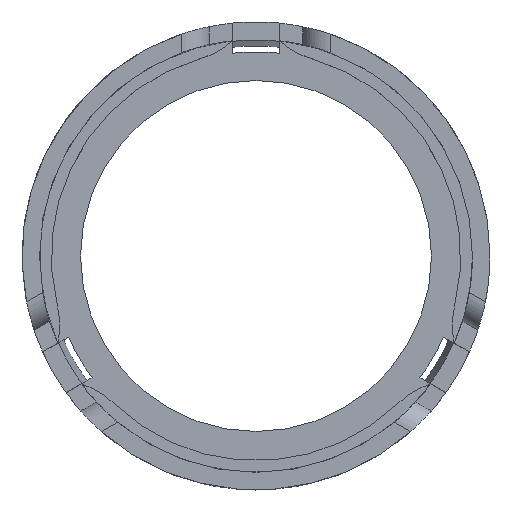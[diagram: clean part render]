
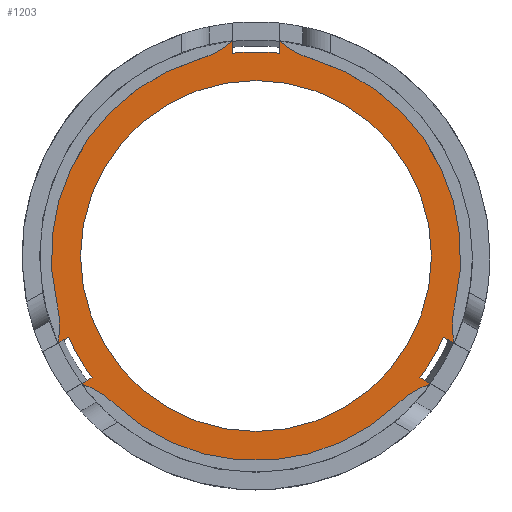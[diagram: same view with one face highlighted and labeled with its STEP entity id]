
A CAD part, top view. The second image highlights one B-rep face of the part: STEP entity #1203.
In plain terms, the highlighted planar face has unit normal (0, 0, 1).
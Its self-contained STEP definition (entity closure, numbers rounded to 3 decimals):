
#33=FACE_BOUND('',#182,.T.);
#60=PLANE('',#1348);
#117=FACE_OUTER_BOUND('',#181,.T.);
#181=EDGE_LOOP('',(#1009,#1010,#1011,#1012,#1013,#1014,#1015,#1016,#1017,
#1018,#1019,#1020,#1021,#1022,#1023,#1024,#1025,#1026));
#182=EDGE_LOOP('',(#1027));
#272=LINE('',#2162,#358);
#273=LINE('',#2164,#359);
#274=LINE('',#2167,#360);
#275=LINE('',#2169,#361);
#276=LINE('',#2172,#362);
#277=LINE('',#2174,#363);
#358=VECTOR('',#1674,10.);
#359=VECTOR('',#1675,10.);
#360=VECTOR('',#1678,10.);
#361=VECTOR('',#1679,10.);
#362=VECTOR('',#1682,10.);
#363=VECTOR('',#1683,10.);
#411=CIRCLE('',#1276,17.5);
#416=CIRCLE('',#1288,7.5);
#418=CIRCLE('',#1291,7.5);
#422=CIRCLE('',#1297,17.5);
#423=CIRCLE('',#1299,7.5);
#424=CIRCLE('',#1301,7.5);
#425=CIRCLE('',#1303,17.5);
#426=CIRCLE('',#1305,7.5);
#429=CIRCLE('',#1310,7.5);
#446=CIRCLE('',#1347,15.);
#447=CIRCLE('',#1349,17.45);
#448=CIRCLE('',#1350,17.45);
#449=CIRCLE('',#1351,17.45);
#512=VERTEX_POINT('',#1930);
#514=VERTEX_POINT('',#1933);
#520=VERTEX_POINT('',#1967);
#523=VERTEX_POINT('',#1972);
#525=VERTEX_POINT('',#1978);
#528=VERTEX_POINT('',#1988);
#529=VERTEX_POINT('',#1992);
#532=VERTEX_POINT('',#2000);
#533=VERTEX_POINT('',#2002);
#534=VERTEX_POINT('',#2006);
#535=VERTEX_POINT('',#2010);
#538=VERTEX_POINT('',#2020);
#560=VERTEX_POINT('',#2157);
#561=VERTEX_POINT('',#2161);
#562=VERTEX_POINT('',#2163);
#563=VERTEX_POINT('',#2165);
#564=VERTEX_POINT('',#2168);
#565=VERTEX_POINT('',#2170);
#566=VERTEX_POINT('',#2173);
#642=EDGE_CURVE('',#514,#512,#411,.T.);
#660=EDGE_CURVE('',#520,#523,#416,.T.);
#662=EDGE_CURVE('',#525,#514,#418,.T.);
#668=EDGE_CURVE('',#528,#520,#422,.T.);
#669=EDGE_CURVE('',#529,#528,#423,.T.);
#674=EDGE_CURVE('',#533,#532,#424,.T.);
#677=EDGE_CURVE('',#534,#533,#425,.T.);
#678=EDGE_CURVE('',#535,#534,#426,.T.);
#684=EDGE_CURVE('',#512,#538,#429,.T.);
#725=EDGE_CURVE('',#560,#560,#446,.T.);
#726=EDGE_CURVE('',#561,#525,#272,.T.);
#727=EDGE_CURVE('',#538,#562,#273,.T.);
#728=EDGE_CURVE('',#562,#563,#447,.T.);
#729=EDGE_CURVE('',#563,#535,#274,.T.);
#730=EDGE_CURVE('',#532,#564,#275,.T.);
#731=EDGE_CURVE('',#564,#565,#448,.T.);
#732=EDGE_CURVE('',#565,#529,#276,.T.);
#733=EDGE_CURVE('',#523,#566,#277,.T.);
#734=EDGE_CURVE('',#566,#561,#449,.T.);
#1009=ORIENTED_EDGE('',*,*,#726,.T.);
#1010=ORIENTED_EDGE('',*,*,#662,.T.);
#1011=ORIENTED_EDGE('',*,*,#642,.T.);
#1012=ORIENTED_EDGE('',*,*,#684,.T.);
#1013=ORIENTED_EDGE('',*,*,#727,.T.);
#1014=ORIENTED_EDGE('',*,*,#728,.T.);
#1015=ORIENTED_EDGE('',*,*,#729,.T.);
#1016=ORIENTED_EDGE('',*,*,#678,.T.);
#1017=ORIENTED_EDGE('',*,*,#677,.T.);
#1018=ORIENTED_EDGE('',*,*,#674,.T.);
#1019=ORIENTED_EDGE('',*,*,#730,.T.);
#1020=ORIENTED_EDGE('',*,*,#731,.T.);
#1021=ORIENTED_EDGE('',*,*,#732,.T.);
#1022=ORIENTED_EDGE('',*,*,#669,.T.);
#1023=ORIENTED_EDGE('',*,*,#668,.T.);
#1024=ORIENTED_EDGE('',*,*,#660,.T.);
#1025=ORIENTED_EDGE('',*,*,#733,.T.);
#1026=ORIENTED_EDGE('',*,*,#734,.T.);
#1027=ORIENTED_EDGE('',*,*,#725,.T.);
#1203=ADVANCED_FACE('',(#117,#33),#60,.T.);
#1276=AXIS2_PLACEMENT_3D('',#1934,#1489,#1490);
#1288=AXIS2_PLACEMENT_3D('',#1974,#1523,#1524);
#1291=AXIS2_PLACEMENT_3D('',#1979,#1529,#1530);
#1297=AXIS2_PLACEMENT_3D('',#1990,#1543,#1544);
#1299=AXIS2_PLACEMENT_3D('',#1993,#1547,#1548);
#1301=AXIS2_PLACEMENT_3D('',#2003,#1555,#1556);
#1303=AXIS2_PLACEMENT_3D('',#2008,#1561,#1562);
#1305=AXIS2_PLACEMENT_3D('',#2011,#1565,#1566);
#1310=AXIS2_PLACEMENT_3D('',#2022,#1578,#1579);
#1347=AXIS2_PLACEMENT_3D('',#2159,#1670,#1671);
#1348=AXIS2_PLACEMENT_3D('',#2160,#1672,#1673);
#1349=AXIS2_PLACEMENT_3D('',#2166,#1676,#1677);
#1350=AXIS2_PLACEMENT_3D('',#2171,#1680,#1681);
#1351=AXIS2_PLACEMENT_3D('',#2175,#1684,#1685);
#1489=DIRECTION('center_axis',(0.,0.,
1.));
#1490=DIRECTION('ref_axis',(-1.,0.,0.));
#1523=DIRECTION('center_axis',(0.,0.,
-1.));
#1524=DIRECTION('ref_axis',(0.971,0.239,0.));
#1529=DIRECTION('center_axis',(0.,0.,
-1.));
#1530=DIRECTION('ref_axis',(0.692,0.722,0.));
#1543=DIRECTION('center_axis',(0.,0.,
1.));
#1544=DIRECTION('ref_axis',(-1.,0.,0.));
#1547=DIRECTION('center_axis',(0.,0.,
-1.));
#1548=DIRECTION('ref_axis',(0.279,-0.96,0.));
#1555=DIRECTION('center_axis',(0.,0.,
-1.));
#1556=DIRECTION('ref_axis',(-0.663,-0.749,0.));
#1561=DIRECTION('center_axis',(0.,0.,
1.));
#1562=DIRECTION('ref_axis',(1.,0.,0.));
#1565=DIRECTION('center_axis',(0.,0.,
-1.));
#1566=DIRECTION('ref_axis',(-0.971,0.239,0.));
#1578=DIRECTION('center_axis',(0.,0.,
-1.));
#1579=DIRECTION('ref_axis',(-0.692,0.722,0.));
#1670=DIRECTION('center_axis',(0.,0.,-1.));
#1671=DIRECTION('ref_axis',(1.,0.,0.));
#1672=DIRECTION('center_axis',(0.,0.,
1.));
#1673=DIRECTION('ref_axis',(1.,0.,0.));
#1674=DIRECTION('',(-0.866,-0.5,0.));
#1675=DIRECTION('',(-0.866,0.5,0.));
#1676=DIRECTION('center_axis',(0.,0.,
1.));
#1677=DIRECTION('ref_axis',(1.,0.,0.));
#1678=DIRECTION('',(0.866,-0.5,0.));
#1679=DIRECTION('',(0.,-1.,0.));
#1680=DIRECTION('center_axis',(0.,0.,
1.));
#1681=DIRECTION('ref_axis',(1.,0.,0.));
#1682=DIRECTION('',(0.,1.,0.));
#1683=DIRECTION('',(0.866,0.5,0.));
#1684=DIRECTION('center_axis',(0.,0.,
1.));
#1685=DIRECTION('ref_axis',(1.,0.,0.));
#1930=CARTESIAN_POINT('',(12.115,-29.706,-43.478));
#1933=CARTESIAN_POINT('',(-12.115,-29.706,-43.478));
#1934=CARTESIAN_POINT('Origin',(0.,-17.078,
-43.478));
#1967=CARTESIAN_POINT('',(-16.994,-21.256,-43.478));
#1972=CARTESIAN_POINT('',(-16.928,-24.542,-43.478));
#1974=CARTESIAN_POINT('Origin',(-24.277,-23.047,-43.478));
#1978=CARTESIAN_POINT('',(-14.928,-28.006,-43.478));
#1979=CARTESIAN_POINT('Origin',(-17.308,-35.118,-43.478));
#1988=CARTESIAN_POINT('',(-4.879,-0.272,-43.478));
#1990=CARTESIAN_POINT('Origin',(0.,-17.078,
-43.478));
#1992=CARTESIAN_POINT('',(-2.,1.313,-43.478));
#1993=CARTESIAN_POINT('Origin',(-6.969,6.931,-43.478));
#2000=CARTESIAN_POINT('',(2.,1.313,-43.478));
#2002=CARTESIAN_POINT('',(4.879,-0.272,-43.478));
#2003=CARTESIAN_POINT('Origin',(6.969,6.931,-43.478));
#2006=CARTESIAN_POINT('',(16.994,-21.256,-43.478));
#2008=CARTESIAN_POINT('Origin',(0.,-17.078,
-43.478));
#2010=CARTESIAN_POINT('',(16.928,-24.542,-43.478));
#2011=CARTESIAN_POINT('Origin',(24.277,-23.047,-43.478));
#2020=CARTESIAN_POINT('',(14.928,-28.006,-43.478));
#2022=CARTESIAN_POINT('Origin',(17.308,-35.118,-43.478));
#2157=CARTESIAN_POINT('',(-15.,-17.078,-43.478));
#2159=CARTESIAN_POINT('Origin',(0.,-17.078,
-43.478));
#2160=CARTESIAN_POINT('Origin',(0.,-17.078,
-43.478));
#2161=CARTESIAN_POINT('',(-14.013,-27.478,-43.478));
#2162=CARTESIAN_POINT('',(-6.724,-23.27,-43.478));
#2163=CARTESIAN_POINT('',(14.013,-27.478,-43.478));
#2164=CARTESIAN_POINT('',(6.964,-23.408,-43.478));
#2165=CARTESIAN_POINT('',(16.013,-24.014,-43.478));
#2166=CARTESIAN_POINT('Origin',(0.,-17.078,-43.478));
#2167=CARTESIAN_POINT('',(8.724,-19.806,-43.478));
#2168=CARTESIAN_POINT('',(2.,0.257,-43.478));
#2169=CARTESIAN_POINT('',(2.,-7.882,-43.478));
#2170=CARTESIAN_POINT('',(-2.,0.257,-43.478));
#2171=CARTESIAN_POINT('Origin',(0.,-17.078,-43.478));
#2172=CARTESIAN_POINT('',(-2.,-8.159,-43.478));
#2173=CARTESIAN_POINT('',(-16.013,-24.014,-43.478));
#2174=CARTESIAN_POINT('',(-8.964,-19.944,-43.478));
#2175=CARTESIAN_POINT('Origin',(0.,-17.078,-43.478));
